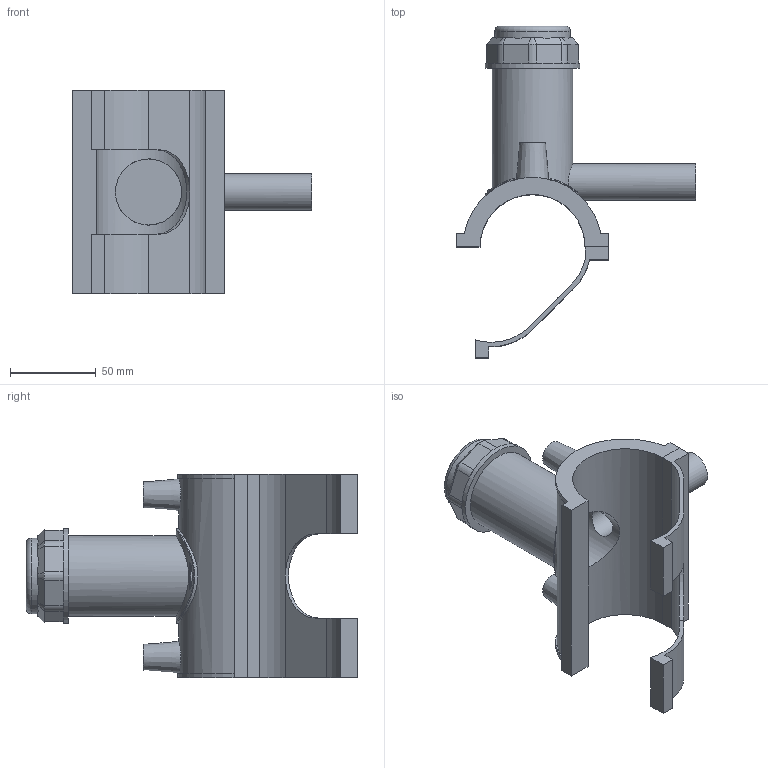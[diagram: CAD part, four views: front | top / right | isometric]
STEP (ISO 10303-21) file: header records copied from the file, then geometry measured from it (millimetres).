
FILE_DESCRIPTION(/* description */ ('PLASSON TAPPING SADDLE 2''''IPS x 1 1/2''''IPS'),/* implementation_level */ '2;1');
FILE_NAME(/* name */ 'C:\Dropbox\KIMPROJECTS-Inventor 2019\99-16-3568-Processing Inch\ASTM ElectroFusion 2021\5963B\5963BB03020005.ipt.stp',/* time_stamp */ '2021-08-30T09:54:57+03:00',/* author */ ('KIM'),/* organization */ (''),/* preprocessor_version */ 'ST-DEVELOPER v17.2',/* originating_system */ 'Autodesk Inventor 2019',/* authorisation */ '');
FILE_SCHEMA (('AUTOMOTIVE_DESIGN { 1 0 10303 214 3 1 1 }'));
Length unit declared in the file: millimetre
Products named in the file (1): 5963BB03020005
Bounding box: 139.45 x 192.97 x 118.11 mm (x, y, z)
Volume: 253597.2 mm3; surface area: 90058.1 mm2
Topology: 2 solids, 2 shells, 109 faces, 275 edges, 181 vertices
Faces by surface type: plane 64, cylinder 32, cone 11, torus 1, bspline 1
Full cylindrical faces by diameter (mm): 4 x2, 10 x2, 16.96 x1, 21.2 x1, 38.493 x1, 43.992 x1, 46.742 x1, 54.99 x1
Entity records: 3828 total; most frequent: CARTESIAN_POINT 1116, DIRECTION 562, ORIENTED_EDGE 550, EDGE_CURVE 275, AXIS2_PLACEMENT_3D 203, VERTEX_POINT 181, LINE 156, VECTOR 156
